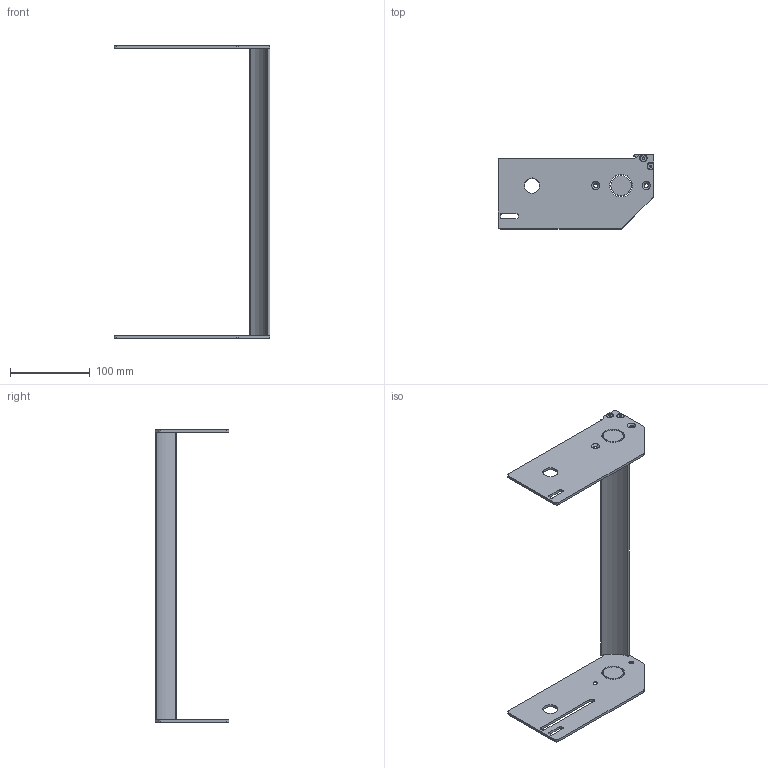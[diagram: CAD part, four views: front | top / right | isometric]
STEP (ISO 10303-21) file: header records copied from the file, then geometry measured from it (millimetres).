
FILE_DESCRIPTION((''),'2;1');
FILE_NAME('27M3301-12_ASM','2019-04-10T',('james.horst'),(''),'PRO/ENGINEER BY PARAMETRIC TECHNOLOGY CORPORATION, 2012420','PRO/ENGINEER BY PARAMETRIC TECHNOLOGY CORPORATION, 2012420','');
FILE_SCHEMA(('CONFIG_CONTROL_DESIGN'));
Length unit declared in the file: inch
Products named in the file (8): 350537_1_1; 9304XXM_930410M_1_1; 350539-14; 350538_1_1; ASM0002_ASM_1_ASM_1_ASM; 351040-08_ASM_1_ASM_1_ASM; 27M3301-08_ASM_1_ASM; 27M3301-12_ASM
Assembly tree (10 placements, depth 5):
  27M3301-12_ASM
    27M3301-08_ASM_1_ASM
      351040-08_ASM_1_ASM_1_ASM
        ASM0002_ASM_1_ASM_1_ASM
          350537_1_1
          9304XXM_930410M_1_1  x4
          350539-14
          350538_1_1
Bounding box: 196.06 x 92.74 x 367.94 mm (x, y, z)
Volume: 201712.3 mm3; surface area: 110209 mm2
Topology: 7 solids, 7 shells, 216 faces, 536 edges, 334 vertices
Faces by surface type: cylinder 80, plane 76, cone 60
Entity records: 5047 total; most frequent: CARTESIAN_POINT 932, DIRECTION 897, ORIENTED_EDGE 790, EDGE_CURVE 395, AXIS2_PLACEMENT_3D 345, VERTEX_POINT 256, VECTOR 207, LINE 207
